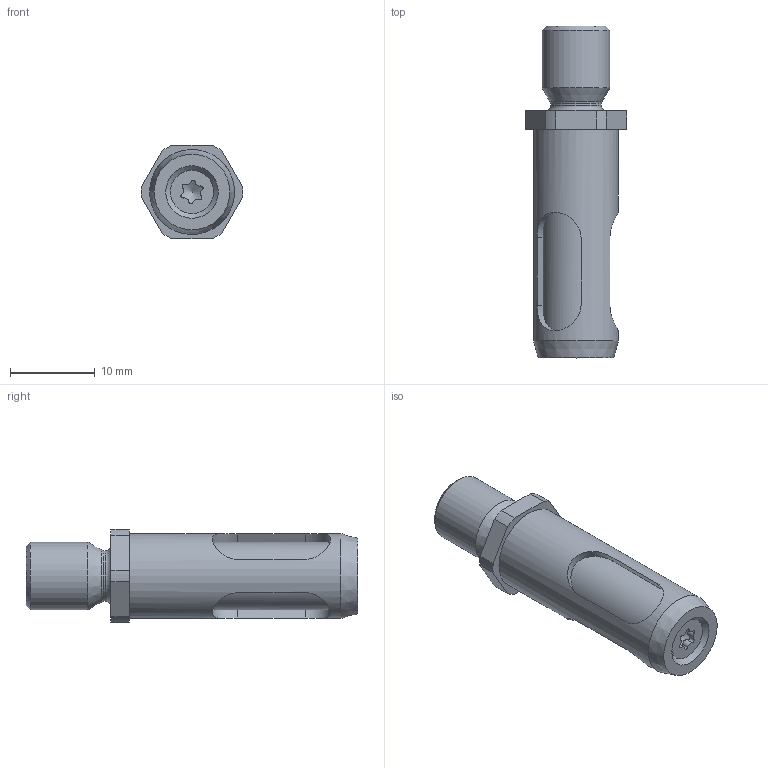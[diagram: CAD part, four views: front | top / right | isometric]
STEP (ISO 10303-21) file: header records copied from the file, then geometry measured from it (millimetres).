
FILE_DESCRIPTION(/* description */ (''),/* implementation_level */ '2;1');
FILE_NAME(/* name */ '\\dc01\daten\CAD\Standard\Daten\3D-Datenbank\GI\GIS\4 - 3D-CAD-Daten GIS 004-020\G-GIS010\G-GIS010_Rev.1.02.stp',/* time_stamp */ '2022-11-29T15:55:35+01:00',/* author */ ('ysplieth'),/* organization */ (''),/* preprocessor_version */ 'ST-DEVELOPER v17',/* originating_system */ 'Autodesk Inventor 2018',/* authorisation */ '');
FILE_SCHEMA (('AUTOMOTIVE_DESIGN { 1 0 10303 214 3 1 1 }'));
Length unit declared in the file: millimetre
Products named in the file (1): Bauteil13
Bounding box: 11.99 x 39.15 x 11 mm (x, y, z)
Volume: 2054.6 mm3; surface area: 2914.5 mm2
Topology: 1 solids, 4 shells, 80 faces, 224 edges, 155 vertices
Faces by surface type: cylinder 41, plane 23, cone 12, torus 4
Full cylindrical faces by diameter (mm): 2.459 x3, 3.2 x1, 4 x2, 4.134 x1, 5.8 x1, 6 x2, 7.9 x1, 8 x2, 10 x1
Entity records: 3239 total; most frequent: CARTESIAN_POINT 1030, ORIENTED_EDGE 442, DIRECTION 441, EDGE_CURVE 221, AXIS2_PLACEMENT_3D 176, VERTEX_POINT 155, CIRCLE 95, EDGE_LOOP 94
